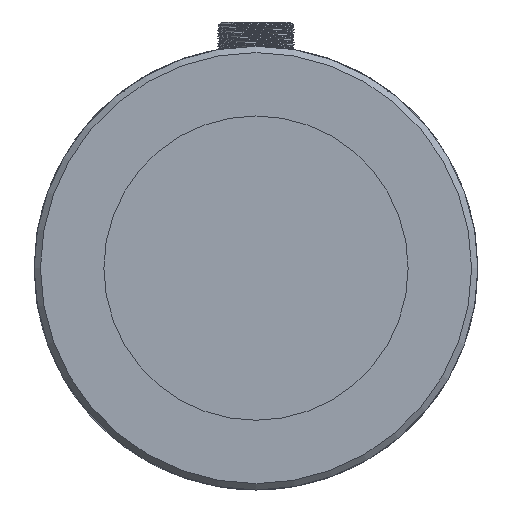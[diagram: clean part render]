
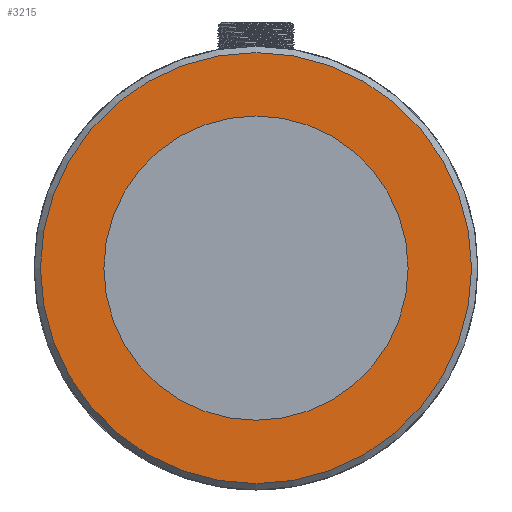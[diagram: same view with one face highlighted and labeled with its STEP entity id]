
A CAD part, left-side view. The second image highlights one B-rep face of the part: STEP entity #3215.
In plain terms, the highlighted planar face has unit normal (-1, 0, 0).
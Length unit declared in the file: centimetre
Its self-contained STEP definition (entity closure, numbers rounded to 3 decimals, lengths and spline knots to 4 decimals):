
#923=PLANE('',#3425);
#1004=CIRCLE('',#3421,2.4);
#1005=CIRCLE('',#3424,3.4);
#1116=VERTEX_POINT('',#4341);
#1117=VERTEX_POINT('',#4345);
#1507=EDGE_CURVE('',#1116,#1116,#1004,.T.);
#1508=EDGE_CURVE('',#1117,#1117,#1005,.T.);
#1930=ORIENTED_EDGE('',*,*,#1507,.T.);
#1931=ORIENTED_EDGE('',*,*,#1508,.F.);
#2726=EDGE_LOOP('',(#1930));
#2727=EDGE_LOOP('',(#1931));
#2978=FACE_BOUND('',#2726,.T.);
#2979=FACE_BOUND('',#2727,.T.);
#3215=ADVANCED_FACE('',(#2978,#2979),#923,.T.);
#3421=AXIS2_PLACEMENT_3D('',#4340,#3675,#3676);
#3424=AXIS2_PLACEMENT_3D('',#4344,#3680,#3681);
#3425=AXIS2_PLACEMENT_3D('',#4346,#3682,$);
#3675=DIRECTION('',(1.,0.,0.));
#3676=DIRECTION('',(0.,0.,2.4));
#3680=DIRECTION('',(1.,0.,0.));
#3681=DIRECTION('',(0.,0.,3.4));
#3682=DIRECTION('',(-1.,0.,0.));
#4340=CARTESIAN_POINT('',(0.,0.,0.));
#4341=CARTESIAN_POINT('',(0.,0.,2.4));
#4344=CARTESIAN_POINT('',(0.,0.,0.));
#4345=CARTESIAN_POINT('',(0.,0.,-3.4));
#4346=CARTESIAN_POINT('',(0.,0.,-1.75));
